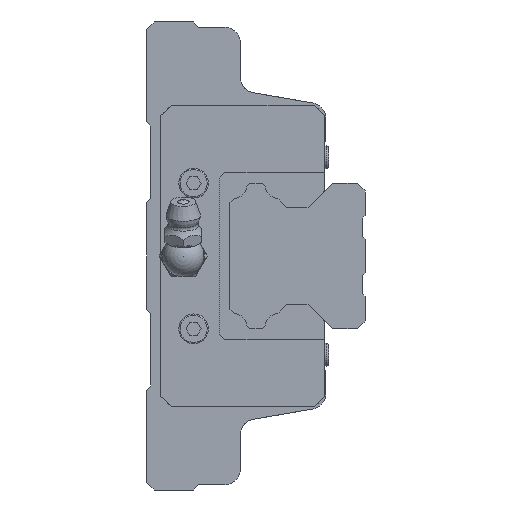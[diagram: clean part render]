
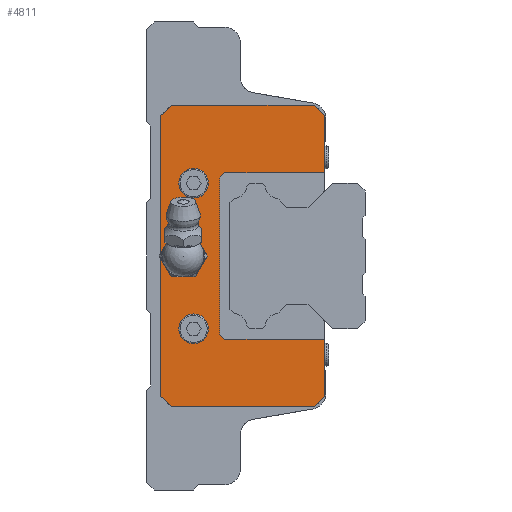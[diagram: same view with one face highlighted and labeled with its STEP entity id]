
A CAD part, left-side view. The second image highlights one B-rep face of the part: STEP entity #4811.
In plain terms, the highlighted planar face has unit normal (-1, 0, 0).
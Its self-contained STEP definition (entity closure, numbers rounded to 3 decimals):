
#235=CIRCLE('',#5229,3.);
#236=CIRCLE('',#5230,2.85);
#237=CIRCLE('',#5231,2.85);
#406=LINE('',#7131,#898);
#419=LINE('',#7158,#911);
#422=LINE('',#7163,#914);
#432=LINE('',#7183,#924);
#439=LINE('',#7197,#931);
#443=LINE('',#7204,#935);
#472=LINE('',#7259,#964);
#490=LINE('',#7305,#982);
#504=LINE('',#7334,#996);
#644=LINE('',#7777,#1136);
#645=LINE('',#7780,#1137);
#646=LINE('',#7781,#1138);
#647=LINE('',#7783,#1139);
#648=LINE('',#7785,#1140);
#898=VECTOR('',#5772,1000.);
#911=VECTOR('',#5787,1000.);
#914=VECTOR('',#5792,1000.);
#924=VECTOR('',#5806,1000.);
#931=VECTOR('',#5817,1000.);
#935=VECTOR('',#5823,1000.);
#964=VECTOR('',#5866,1000.);
#982=VECTOR('',#5900,1000.);
#996=VECTOR('',#5920,1000.);
#1136=VECTOR('',#6274,1000.);
#1137=VECTOR('',#6275,1000.);
#1138=VECTOR('',#6276,1000.);
#1139=VECTOR('',#6277,1000.);
#1140=VECTOR('',#6278,1000.);
#2094=ORIENTED_EDGE('',*,*,#3089,.T.);
#2095=ORIENTED_EDGE('',*,*,#3090,.F.);
#2096=ORIENTED_EDGE('',*,*,#3091,.F.);
#2097=ORIENTED_EDGE('',*,*,#3092,.T.);
#2098=ORIENTED_EDGE('',*,*,#3093,.T.);
#2099=ORIENTED_EDGE('',*,*,#2894,.F.);
#2100=ORIENTED_EDGE('',*,*,#2827,.F.);
#2101=ORIENTED_EDGE('',*,*,#2823,.F.);
#2102=ORIENTED_EDGE('',*,*,#2816,.F.);
#2103=ORIENTED_EDGE('',*,*,#2856,.F.);
#2104=ORIENTED_EDGE('',*,*,#2790,.F.);
#2105=ORIENTED_EDGE('',*,*,#2806,.F.);
#2106=ORIENTED_EDGE('',*,*,#2803,.F.);
#2107=ORIENTED_EDGE('',*,*,#2878,.F.);
#2108=ORIENTED_EDGE('',*,*,#3094,.T.);
#2109=ORIENTED_EDGE('',*,*,#3095,.T.);
#2110=ORIENTED_EDGE('',*,*,#3096,.T.);
#2790=EDGE_CURVE('',#3412,#3413,#406,.T.);
#2803=EDGE_CURVE('',#3425,#3426,#419,.T.);
#2806=EDGE_CURVE('',#3426,#3412,#422,.T.);
#2816=EDGE_CURVE('',#3434,#3435,#432,.T.);
#2823=EDGE_CURVE('',#3435,#3440,#439,.T.);
#2827=EDGE_CURVE('',#3440,#3442,#443,.T.);
#2856=EDGE_CURVE('',#3413,#3434,#472,.T.);
#2878=EDGE_CURVE('',#3480,#3425,#490,.T.);
#2894=EDGE_CURVE('',#3442,#3493,#504,.T.);
#3089=EDGE_CURVE('',#3638,#3638,#235,.T.);
#3090=EDGE_CURVE('',#3639,#3639,#236,.F.);
#3091=EDGE_CURVE('',#3640,#3640,#237,.F.);
#3092=EDGE_CURVE('',#3641,#3642,#644,.T.);
#3093=EDGE_CURVE('',#3642,#3493,#645,.T.);
#3094=EDGE_CURVE('',#3480,#3643,#646,.T.);
#3095=EDGE_CURVE('',#3643,#3644,#647,.T.);
#3096=EDGE_CURVE('',#3644,#3641,#648,.T.);
#3412=VERTEX_POINT('',#7130);
#3413=VERTEX_POINT('',#7132);
#3425=VERTEX_POINT('',#7157);
#3426=VERTEX_POINT('',#7159);
#3434=VERTEX_POINT('',#7182);
#3435=VERTEX_POINT('',#7184);
#3440=VERTEX_POINT('',#7198);
#3442=VERTEX_POINT('',#7205);
#3480=VERTEX_POINT('',#7304);
#3493=VERTEX_POINT('',#7335);
#3638=VERTEX_POINT('',#7772);
#3639=VERTEX_POINT('',#7774);
#3640=VERTEX_POINT('',#7776);
#3641=VERTEX_POINT('',#7778);
#3642=VERTEX_POINT('',#7779);
#3643=VERTEX_POINT('',#7782);
#3644=VERTEX_POINT('',#7784);
#3954=EDGE_LOOP('',(#2094));
#3955=EDGE_LOOP('',(#2095));
#3956=EDGE_LOOP('',(#2096));
#3957=EDGE_LOOP('',(#2097,#2098,#2099,#2100,#2101,#2102,#2103,#2104,#2105,
#2106,#2107,#2108,#2109,#2110));
#4305=FACE_BOUND('',#3954,.T.);
#4306=FACE_BOUND('',#3955,.T.);
#4307=FACE_BOUND('',#3956,.T.);
#4308=FACE_BOUND('',#3957,.T.);
#4579=PLANE('',#5228);
#4811=ADVANCED_FACE('',(#4305,#4306,#4307,#4308),#4579,.F.);
#5228=AXIS2_PLACEMENT_3D('',#7770,#6266,#6267);
#5229=AXIS2_PLACEMENT_3D('',#7771,#6268,#6269);
#5230=AXIS2_PLACEMENT_3D('',#7773,#6270,#6271);
#5231=AXIS2_PLACEMENT_3D('',#7775,#6272,#6273);
#5772=DIRECTION('',(0.,0.707,0.707));
#5787=DIRECTION('',(0.,0.707,-0.707));
#5792=DIRECTION('',(0.,1.,0.));
#5806=DIRECTION('',(0.,-0.707,0.707));
#5817=DIRECTION('',(0.,-1.,0.));
#5823=DIRECTION('',(0.,-0.707,-0.707));
#5866=DIRECTION('',(0.,0.,1.));
#5900=DIRECTION('',(0.,0.,-1.));
#5920=DIRECTION('',(0.,0.,-1.));
#6266=DIRECTION('',(1.,0.,0.));
#6267=DIRECTION('',(0.,0.,-1.));
#6268=DIRECTION('',(1.,0.,0.));
#6269=DIRECTION('',(0.,0.,-1.));
#6270=DIRECTION('',(1.,0.,0.));
#6271=DIRECTION('',(0.,0.,-1.));
#6272=DIRECTION('',(1.,0.,0.));
#6273=DIRECTION('',(0.,0.,-1.));
#6274=DIRECTION('',(0.,-0.707,0.707));
#6275=DIRECTION('',(0.,-1.,0.));
#6276=DIRECTION('',(0.,1.,0.));
#6277=DIRECTION('',(0.,0.707,0.707));
#6278=DIRECTION('',(0.,0.,1.));
#7130=CARTESIAN_POINT('',(-58.7,30.283,-29.));
#7131=CARTESIAN_POINT('',(-58.7,30.283,-29.));
#7132=CARTESIAN_POINT('',(-58.7,32.283,-27.));
#7157=CARTESIAN_POINT('',(-58.7,0.783,-27.));
#7158=CARTESIAN_POINT('',(-58.7,0.783,-27.));
#7159=CARTESIAN_POINT('',(-58.7,2.783,-29.));
#7163=CARTESIAN_POINT('',(-58.7,0.,-29.));
#7182=CARTESIAN_POINT('',(-58.7,32.283,27.));
#7183=CARTESIAN_POINT('',(-58.7,32.283,27.));
#7184=CARTESIAN_POINT('',(-58.7,30.283,29.));
#7197=CARTESIAN_POINT('',(-58.7,35.,29.));
#7198=CARTESIAN_POINT('',(-58.7,2.783,29.));
#7204=CARTESIAN_POINT('',(-58.7,2.783,29.));
#7205=CARTESIAN_POINT('',(-58.7,0.783,27.));
#7259=CARTESIAN_POINT('',(-58.7,32.283,-27.));
#7304=CARTESIAN_POINT('',(-58.7,0.783,-16.));
#7305=CARTESIAN_POINT('',(-58.7,0.783,22.));
#7334=CARTESIAN_POINT('',(-58.7,0.783,22.));
#7335=CARTESIAN_POINT('',(-58.7,0.783,16.));
#7770=CARTESIAN_POINT('',(-58.7,0.,0.));
#7771=CARTESIAN_POINT('',(-58.7,28.,0.));
#7772=CARTESIAN_POINT('',(-58.7,28.,-3.));
#7773=CARTESIAN_POINT('',(-58.7,26.,14.));
#7774=CARTESIAN_POINT('',(-58.7,26.,11.15));
#7775=CARTESIAN_POINT('',(-58.7,26.,-14.));
#7776=CARTESIAN_POINT('',(-58.7,26.,-16.85));
#7777=CARTESIAN_POINT('',(-58.7,21.,15.));
#7778=CARTESIAN_POINT('',(-58.7,21.,15.));
#7779=CARTESIAN_POINT('',(-58.7,20.,16.));
#7780=CARTESIAN_POINT('',(-58.7,20.,16.));
#7781=CARTESIAN_POINT('',(-58.7,0.783,-16.));
#7782=CARTESIAN_POINT('',(-58.7,20.,-16.));
#7783=CARTESIAN_POINT('',(-58.7,20.,-16.));
#7784=CARTESIAN_POINT('',(-58.7,21.,-15.));
#7785=CARTESIAN_POINT('',(-58.7,21.,-15.));
